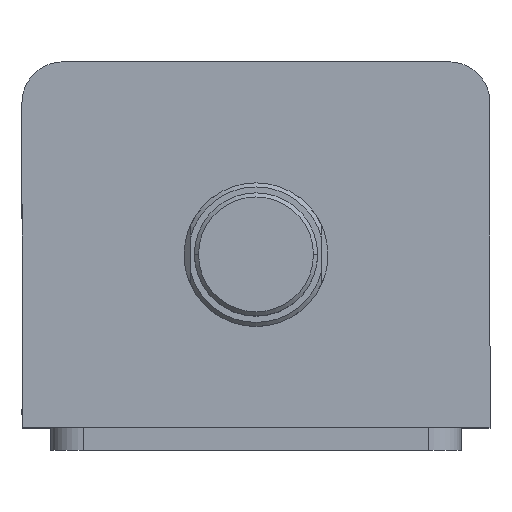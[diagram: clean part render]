
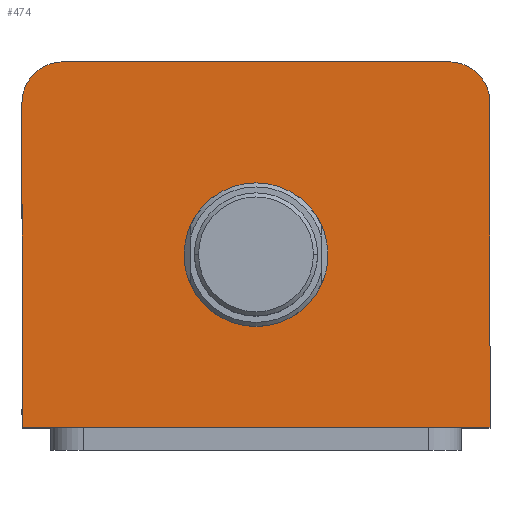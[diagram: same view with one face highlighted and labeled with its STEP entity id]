
A CAD part, top view. The second image highlights one B-rep face of the part: STEP entity #474.
In plain terms, the highlighted planar face has unit normal (0, 0, 1).
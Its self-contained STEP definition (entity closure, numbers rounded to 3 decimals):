
#183 = CARTESIAN_POINT ( 'NONE',  ( -17.5, -2.5, 162. ) ) ;
#195 = CARTESIAN_POINT ( 'NONE',  ( -57., -44.5, 162. ) ) ;
#196 = CARTESIAN_POINT ( 'NONE',  ( 57., -44.5, 162. ) ) ;
#239 = PLANE ( 'NONE',  #3440 ) ;
#242 = CARTESIAN_POINT ( 'NONE',  ( 0., 0., 162. ) ) ;
#248 = DIRECTION ( 'NONE',  ( 0., 0., 1. ) ) ;
#249 = DIRECTION ( 'NONE',  ( 1., 0., 0. ) ) ;
#474 = ADVANCED_FACE ( 'NONE', ( #3170, #3177 ), #239, .T. ) ;
#885 = CARTESIAN_POINT ( 'NONE',  ( 57., 44.5, 162. ) ) ;
#886 = DIRECTION ( 'NONE',  ( 0., 1., 0. ) ) ;
#919 = CARTESIAN_POINT ( 'NONE',  ( -57., 44.5, 162. ) ) ;
#920 = DIRECTION ( 'NONE',  ( -1., 0., 0. ) ) ;
#960 = CARTESIAN_POINT ( 'NONE',  ( 47., 34.5, 162. ) ) ;
#962 = DIRECTION ( 'NONE',  ( 0., 0., 1. ) ) ;
#964 = DIRECTION ( 'NONE',  ( 1., 0., 0. ) ) ;
#1022 = CARTESIAN_POINT ( 'NONE',  ( -47., 34.5, 162. ) ) ;
#1193 = VERTEX_POINT ( 'NONE', #183 ) ;
#1205 = VERTEX_POINT ( 'NONE', #195 ) ;
#1206 = VERTEX_POINT ( 'NONE', #196 ) ;
#1233 = VERTEX_POINT ( 'NONE', #2979 ) ;
#1743 = ORIENTED_EDGE ( 'NONE', *, *, #3581, .F. ) ;
#1744 = ORIENTED_EDGE ( 'NONE', *, *, #3579, .F. ) ;
#1745 = ORIENTED_EDGE ( 'NONE', *, *, #3622, .T. ) ;
#1746 = ORIENTED_EDGE ( 'NONE', *, *, #3644, .T. ) ;
#1747 = ORIENTED_EDGE ( 'NONE', *, *, #3648, .T. ) ;
#1748 = ORIENTED_EDGE ( 'NONE', *, *, #3588, .T. ) ;
#1749 = ORIENTED_EDGE ( 'NONE', *, *, #3604, .T. ) ;
#1750 = ORIENTED_EDGE ( 'NONE', *, *, #3635, .T. ) ;
#1960 = EDGE_LOOP ( 'NONE', ( #1743, #1744 ) ) ;
#2123 = DIRECTION ( 'NONE',  ( 1., 0., 0. ) ) ;
#2131 = CARTESIAN_POINT ( 'NONE',  ( -57., 44.5, 162. ) ) ;
#2132 = DIRECTION ( 'NONE',  ( 0., -1., 0. ) ) ;
#2349 = VERTEX_POINT ( 'NONE', #3038 ) ;
#2358 = VERTEX_POINT ( 'NONE', #3047 ) ;
#2359 = VERTEX_POINT ( 'NONE', #3048 ) ;
#2369 = VERTEX_POINT ( 'NONE', #3058 ) ;
#2372 = EDGE_LOOP ( 'NONE', ( #1745, #1746, #1747, #1748, #1749, #1750 ) ) ;
#2473 = CARTESIAN_POINT ( 'NONE',  ( 0., -2.5, 162. ) ) ;
#2474 = DIRECTION ( 'NONE',  ( 0., 0., 1. ) ) ;
#2475 = DIRECTION ( 'NONE',  ( 1., 0., 0. ) ) ;
#2476 = CARTESIAN_POINT ( 'NONE',  ( 0., -2.5, 162. ) ) ;
#2477 = DIRECTION ( 'NONE',  ( 0., 0., 1. ) ) ;
#2478 = DIRECTION ( 'NONE',  ( 1., 0., 0. ) ) ;
#2487 = CARTESIAN_POINT ( 'NONE',  ( -57., -44.5, 162. ) ) ;
#2497 = DIRECTION ( 'NONE',  ( 1., 0., 0. ) ) ;
#2511 = DIRECTION ( 'NONE',  ( 0., 0., 1. ) ) ;
#2677 = LINE ( 'NONE', #2487, #2685 ) ;
#2685 = VECTOR ( 'NONE', #2497, 1000. ) ;
#2712 = LINE ( 'NONE', #885, #2715 ) ;
#2715 = VECTOR ( 'NONE', #886, 1000. ) ;
#2739 = LINE ( 'NONE', #919, #2742 ) ;
#2742 = VECTOR ( 'NONE', #920, 1000. ) ;
#2755 = CIRCLE ( 'NONE', #3366, 10. ) ;
#2768 = CIRCLE ( 'NONE', #3359, 10. ) ;
#2774 = LINE ( 'NONE', #2131, #2777 ) ;
#2777 = VECTOR ( 'NONE', #2132, 1000. ) ;
#2979 = CARTESIAN_POINT ( 'NONE',  ( 17.5, -2.5, 162. ) ) ;
#3038 = CARTESIAN_POINT ( 'NONE',  ( -47., 44.5, 162. ) ) ;
#3047 = CARTESIAN_POINT ( 'NONE',  ( 47., 44.5, 162. ) ) ;
#3048 = CARTESIAN_POINT ( 'NONE',  ( -57., 34.5, 162. ) ) ;
#3058 = CARTESIAN_POINT ( 'NONE',  ( 57., 34.5, 162. ) ) ;
#3170 = FACE_BOUND ( 'NONE', #1960, .T. ) ;
#3177 = FACE_OUTER_BOUND ( 'NONE', #2372, .T. ) ;
#3309 = CIRCLE ( 'NONE', #3382, 17.5 ) ;
#3312 = CIRCLE ( 'NONE', #3381, 17.5 ) ;
#3359 = AXIS2_PLACEMENT_3D ( 'NONE', #1022, #2511, #2123 ) ;
#3366 = AXIS2_PLACEMENT_3D ( 'NONE', #960, #962, #964 ) ;
#3381 = AXIS2_PLACEMENT_3D ( 'NONE', #2476, #2477, #2478 ) ;
#3382 = AXIS2_PLACEMENT_3D ( 'NONE', #2473, #2474, #2475 ) ;
#3440 = AXIS2_PLACEMENT_3D ( 'NONE', #242, #248, #249 ) ;
#3579 = EDGE_CURVE ( 'NONE', #1193, #1233, #3309, .T. ) ;
#3581 = EDGE_CURVE ( 'NONE', #1233, #1193, #3312, .T. ) ;
#3588 = EDGE_CURVE ( 'NONE', #1205, #1206, #2677, .T. ) ;
#3604 = EDGE_CURVE ( 'NONE', #1206, #2369, #2712, .T. ) ;
#3622 = EDGE_CURVE ( 'NONE', #2358, #2349, #2739, .T. ) ;
#3635 = EDGE_CURVE ( 'NONE', #2369, #2358, #2755, .T. ) ;
#3644 = EDGE_CURVE ( 'NONE', #2349, #2359, #2768, .T. ) ;
#3648 = EDGE_CURVE ( 'NONE', #2359, #1205, #2774, .T. ) ;
